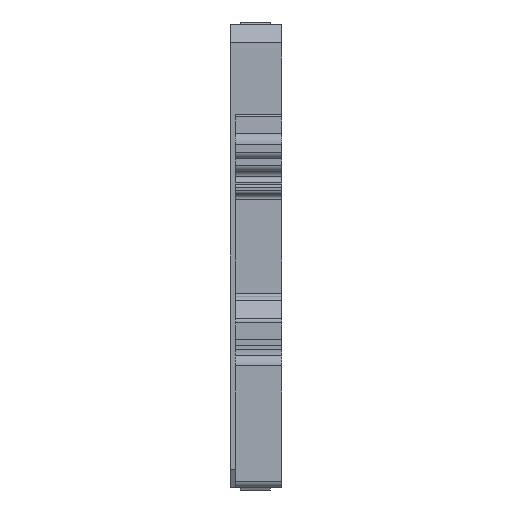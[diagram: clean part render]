
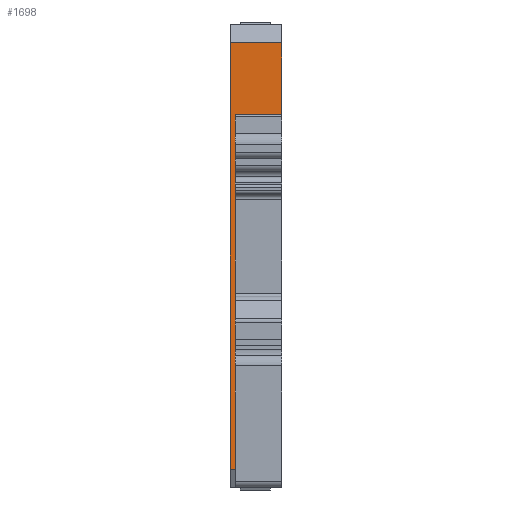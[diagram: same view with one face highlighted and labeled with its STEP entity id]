
A CAD part, left-side view. The second image highlights one B-rep face of the part: STEP entity #1698.
In plain terms, the highlighted planar face has unit normal (-1, 0, 0).
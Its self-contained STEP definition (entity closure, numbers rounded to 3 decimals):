
#1698=ADVANCED_FACE('',(#17917),#17919,.T.);
#17917=FACE_BOUND('',#17918,.T.);
#17918=EDGE_LOOP('',(#30828,#30829,#30830,#30831,#30832,#30833,#30834,#30835,#30836,
#30837,#30838,#30839,#30840,#30841));
#17919=PLANE('',#17920);
#17920=AXIS2_PLACEMENT_3D('',#17921,#17922,#17923);
#17921=CARTESIAN_POINT('',(12.8,0.,0.));
#17922=DIRECTION('',(-1.,0.,0.));
#17923=DIRECTION('',(0.,0.,1.));
#30828=ORIENTED_EDGE('',*,*,#40602,.T.);
#30829=ORIENTED_EDGE('',*,*,#40784,.T.);
#30830=ORIENTED_EDGE('',*,*,#40736,.F.);
#30831=ORIENTED_EDGE('',*,*,#40785,.F.);
#30832=ORIENTED_EDGE('',*,*,#40786,.T.);
#30833=ORIENTED_EDGE('',*,*,#40787,.F.);
#30834=ORIENTED_EDGE('',*,*,#40697,.T.);
#30835=ORIENTED_EDGE('',*,*,#40788,.T.);
#30836=ORIENTED_EDGE('',*,*,#40789,.T.);
#30837=ORIENTED_EDGE('',*,*,#40790,.T.);
#30838=ORIENTED_EDGE('',*,*,#40791,.T.);
#30839=ORIENTED_EDGE('',*,*,#40792,.T.);
#30840=ORIENTED_EDGE('',*,*,#40793,.T.);
#30841=ORIENTED_EDGE('',*,*,#40794,.F.);
#40602=EDGE_CURVE('',#46157,#46158,#46159,.T.);
#40697=EDGE_CURVE('',#46347,#46345,#46348,.T.);
#40736=EDGE_CURVE('',#46422,#46424,#46425,.T.);
#40784=EDGE_CURVE('',#46158,#46424,#46497,.T.);
#40785=EDGE_CURVE('',#46498,#46422,#46499,.T.);
#40786=EDGE_CURVE('',#46498,#46500,#46501,.T.);
#40787=EDGE_CURVE('',#46347,#46500,#46502,.T.);
#40788=EDGE_CURVE('',#46345,#46503,#46504,.T.);
#40789=EDGE_CURVE('',#46503,#46505,#46506,.T.);
#40790=EDGE_CURVE('',#46505,#46507,#46508,.T.);
#40791=EDGE_CURVE('',#46507,#46509,#46510,.T.);
#40792=EDGE_CURVE('',#46509,#46511,#46512,.T.);
#40793=EDGE_CURVE('',#46511,#46513,#46514,.T.);
#40794=EDGE_CURVE('',#46157,#46513,#46515,.T.);
#46157=VERTEX_POINT('',#55914);
#46158=VERTEX_POINT('',#55915);
#46159=LINE('',#55916,#55917);
#46345=VERTEX_POINT('',#56323);
#46347=VERTEX_POINT('',#56328);
#46348=LINE('',#56329,#56330);
#46422=VERTEX_POINT('',#56492);
#46424=VERTEX_POINT('',#56496);
#46425=LINE('',#56497,#56498);
#46497=LINE('',#56665,#56666);
#46498=VERTEX_POINT('',#56668);
#46499=LINE('',#56669,#56670);
#46500=VERTEX_POINT('',#56672);
#46501=LINE('',#56673,#56674);
#46502=LINE('',#56676,#56677);
#46503=VERTEX_POINT('',#56679);
#46504=LINE('',#56680,#56681);
#46505=VERTEX_POINT('',#56683);
#46506=LINE('',#56684,#56685);
#46507=VERTEX_POINT('',#56687);
#46508=LINE('',#56688,#56689);
#46509=VERTEX_POINT('',#56691);
#46510=LINE('',#56692,#56693);
#46511=VERTEX_POINT('',#56695);
#46512=LINE('',#56696,#56697);
#46513=VERTEX_POINT('',#56699);
#46514=LINE('',#56700,#56701);
#46515=LINE('',#56703,#56704);
#55914=CARTESIAN_POINT('',(12.8,0.,64.55));
#55915=CARTESIAN_POINT('',(12.8,0.,76.882));
#55916=CARTESIAN_POINT('',(12.8,0.,64.55));
#55917=VECTOR('',#55918,1.);
#55918=DIRECTION('',(0.,0.,1.));
#56323=CARTESIAN_POINT('',(12.8,0.,17.642));
#56328=CARTESIAN_POINT('',(12.8,0.,6.3));
#56329=CARTESIAN_POINT('',(12.8,0.,6.3));
#56330=VECTOR('',#56331,1.);
#56331=DIRECTION('',(0.,0.,1.));
#56492=CARTESIAN_POINT('',(12.8,8.9,3.118));
#56496=CARTESIAN_POINT('',(12.8,8.9,76.882));
#56497=CARTESIAN_POINT('',(12.8,8.9,3.118));
#56498=VECTOR('',#56499,1.);
#56499=DIRECTION('',(0.,0.,1.));
#56665=CARTESIAN_POINT('',(12.8,0.,76.882));
#56666=VECTOR('',#56667,1.);
#56667=DIRECTION('',(0.,1.,0.));
#56668=CARTESIAN_POINT('',(12.8,8.,3.118));
#56669=CARTESIAN_POINT('',(12.8,8.,3.118));
#56670=VECTOR('',#56671,1.);
#56671=DIRECTION('',(0.,1.,0.));
#56672=CARTESIAN_POINT('',(12.8,8.,6.3));
#56673=CARTESIAN_POINT('',(12.8,8.,3.118));
#56674=VECTOR('',#56675,1.);
#56675=DIRECTION('',(0.,0.,1.));
#56676=CARTESIAN_POINT('',(12.8,0.,6.3));
#56677=VECTOR('',#56678,1.);
#56678=DIRECTION('',(0.,1.,0.));
#56679=CARTESIAN_POINT('',(12.8,8.,17.642));
#56680=CARTESIAN_POINT('',(12.8,0.,17.642));
#56681=VECTOR('',#56682,1.);
#56682=DIRECTION('',(0.,1.,0.));
#56683=CARTESIAN_POINT('',(12.8,8.,19.742));
#56684=CARTESIAN_POINT('',(12.8,8.,17.642));
#56685=VECTOR('',#56686,1.);
#56686=DIRECTION('',(0.,0.,1.));
#56687=CARTESIAN_POINT('',(12.8,8.,38.4));
#56688=CARTESIAN_POINT('',(12.8,8.,19.742));
#56689=VECTOR('',#56690,1.);
#56690=DIRECTION('',(0.,0.,1.));
#56691=CARTESIAN_POINT('',(12.8,8.,41.6));
#56692=CARTESIAN_POINT('',(12.8,8.,38.4));
#56693=VECTOR('',#56694,1.);
#56694=DIRECTION('',(0.,0.,1.));
#56695=CARTESIAN_POINT('',(12.8,8.,62.752));
#56696=CARTESIAN_POINT('',(12.8,8.,41.6));
#56697=VECTOR('',#56698,1.);
#56698=DIRECTION('',(0.,0.,1.));
#56699=CARTESIAN_POINT('',(12.8,8.,64.55));
#56700=CARTESIAN_POINT('',(12.8,8.,62.752));
#56701=VECTOR('',#56702,1.);
#56702=DIRECTION('',(0.,0.,1.));
#56703=CARTESIAN_POINT('',(12.8,0.,64.55));
#56704=VECTOR('',#56705,1.);
#56705=DIRECTION('',(0.,1.,0.));
